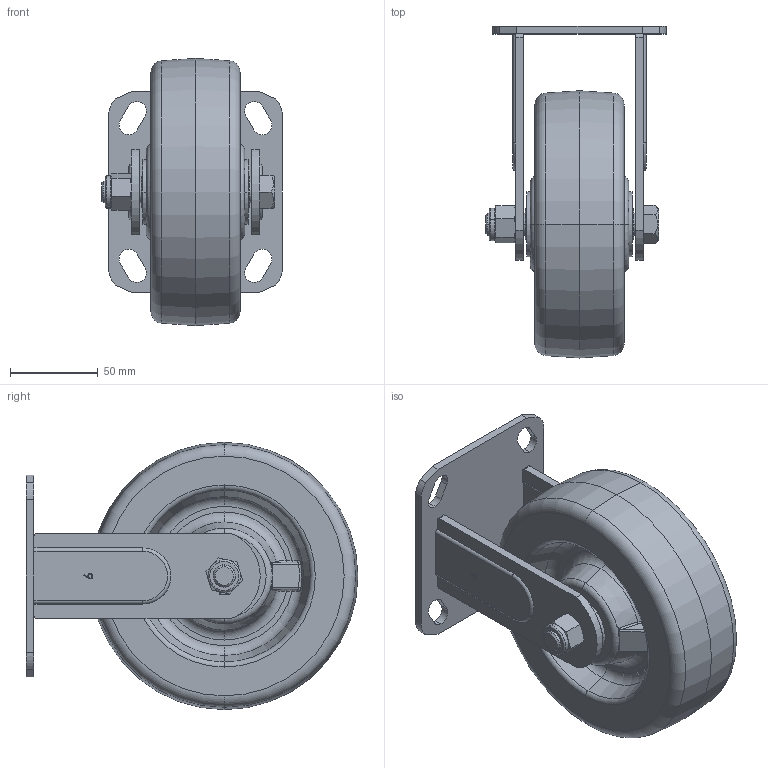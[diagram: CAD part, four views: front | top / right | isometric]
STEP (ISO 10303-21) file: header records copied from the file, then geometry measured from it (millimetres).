
FILE_DESCRIPTION (( 'STEP AP203' ), '1' );
FILE_NAME ('4111206001024-7.STEP', '2025-07-22T03:36:52', ( '' ), ( '' ), 'SwSTEP 2.0', 'SolidWorks 2019', '' );
FILE_SCHEMA (( 'CONFIG_CONTROL_DESIGN' ));
Length unit declared in the file: millimetre
Products named in the file (1): 4111206001024-7
Bounding box: 103 x 189.2 x 152.4 mm (x, y, z)
Volume: 887515.5 mm3; surface area: 124172.8 mm2
Topology: 4 solids, 4 shells, 251 faces, 627 edges, 405 vertices
Faces by surface type: plane 96, cylinder 80, cone 31, torus 27, bspline 15, sphere 2
Entity records: 8503 total; most frequent: CARTESIAN_POINT 2367, DIRECTION 1293, ORIENTED_EDGE 1250, EDGE_CURVE 625, AXIS2_PLACEMENT_3D 505, VERTEX_POINT 405, EDGE_LOOP 288, VECTOR 283
